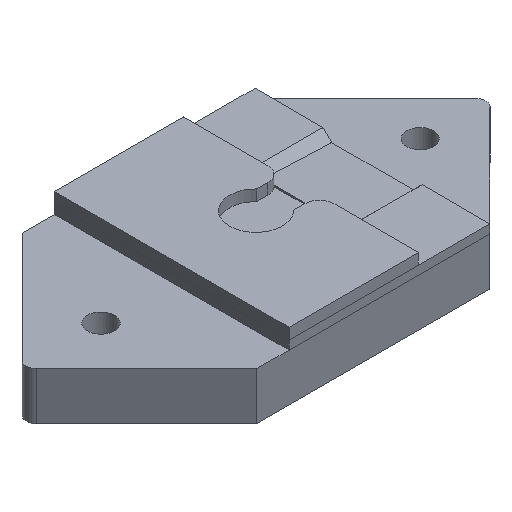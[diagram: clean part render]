
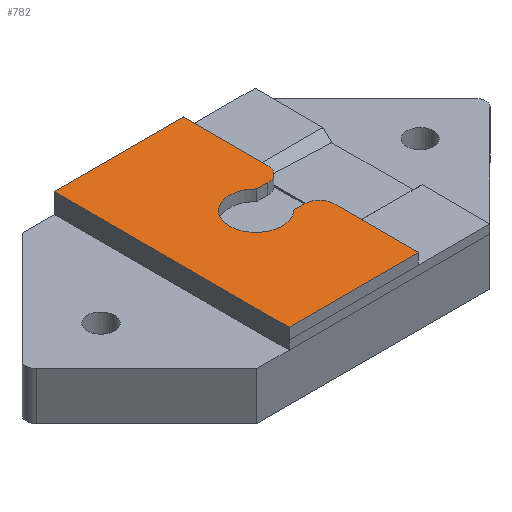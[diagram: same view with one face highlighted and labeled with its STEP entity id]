
A CAD part, isometric view. The second image highlights one B-rep face of the part: STEP entity #782.
In plain terms, the highlighted planar face has unit normal (0, 0, 1).
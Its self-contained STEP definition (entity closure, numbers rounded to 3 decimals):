
#555 = VERTEX_POINT('',#556);
#556 = CARTESIAN_POINT('',(-11.5,16.,2.7));
#562 = EDGE_CURVE('',#555,#563,#565,.T.);
#563 = VERTEX_POINT('',#564);
#564 = CARTESIAN_POINT('',(6.125,16.,2.7));
#565 = LINE('',#566,#567);
#566 = CARTESIAN_POINT('',(-11.5,16.,2.7));
#567 = VECTOR('',#568,1.);
#568 = DIRECTION('',(1.,0.,0.));
#642 = EDGE_CURVE('',#555,#643,#645,.T.);
#643 = VERTEX_POINT('',#644);
#644 = CARTESIAN_POINT('',(-11.5,-16.,2.7));
#645 = LINE('',#646,#647);
#646 = CARTESIAN_POINT('',(-11.5,16.,2.7));
#647 = VECTOR('',#648,1.);
#648 = DIRECTION('',(0.,-1.,0.));
#757 = VERTEX_POINT('',#758);
#758 = CARTESIAN_POINT('',(6.125,4.5,2.7));
#764 = EDGE_CURVE('',#757,#563,#765,.T.);
#765 = LINE('',#766,#767);
#766 = CARTESIAN_POINT('',(6.125,4.5,2.7));
#767 = VECTOR('',#768,1.);
#768 = DIRECTION('',(0.,1.,0.));
#782 = ADVANCED_FACE('',(#783),#845,.T.);
#783 = FACE_BOUND('',#784,.T.);
#784 = EDGE_LOOP('',(#785,#786,#794,#802,#811,#819,#828,#836,#843,#844)
  );
#785 = ORIENTED_EDGE('',*,*,#642,.T.);
#786 = ORIENTED_EDGE('',*,*,#787,.T.);
#787 = EDGE_CURVE('',#643,#788,#790,.T.);
#788 = VERTEX_POINT('',#789);
#789 = CARTESIAN_POINT('',(6.125,-16.,2.7));
#790 = LINE('',#791,#792);
#791 = CARTESIAN_POINT('',(-11.5,-16.,2.7));
#792 = VECTOR('',#793,1.);
#793 = DIRECTION('',(1.,0.,0.));
#794 = ORIENTED_EDGE('',*,*,#795,.T.);
#795 = EDGE_CURVE('',#788,#796,#798,.T.);
#796 = VERTEX_POINT('',#797);
#797 = CARTESIAN_POINT('',(6.125,-4.5,2.7));
#798 = LINE('',#799,#800);
#799 = CARTESIAN_POINT('',(6.125,-16.,2.7));
#800 = VECTOR('',#801,1.);
#801 = DIRECTION('',(0.,1.,0.));
#802 = ORIENTED_EDGE('',*,*,#803,.T.);
#803 = EDGE_CURVE('',#796,#804,#806,.T.);
#804 = VERTEX_POINT('',#805);
#805 = CARTESIAN_POINT('',(4.125,-2.5,2.7));
#806 = CIRCLE('',#807,2.);
#807 = AXIS2_PLACEMENT_3D('',#808,#809,#810);
#808 = CARTESIAN_POINT('',(4.125,-4.5,2.7));
#809 = DIRECTION('',(0.,0.,1.));
#810 = DIRECTION('',(1.,0.,0.));
#811 = ORIENTED_EDGE('',*,*,#812,.T.);
#812 = EDGE_CURVE('',#804,#813,#815,.T.);
#813 = VERTEX_POINT('',#814);
#814 = CARTESIAN_POINT('',(2.625,-2.5,2.7));
#815 = LINE('',#816,#817);
#816 = CARTESIAN_POINT('',(4.125,-2.5,2.7));
#817 = VECTOR('',#818,1.);
#818 = DIRECTION('',(-1.,0.,0.));
#819 = ORIENTED_EDGE('',*,*,#820,.F.);
#820 = EDGE_CURVE('',#821,#813,#823,.T.);
#821 = VERTEX_POINT('',#822);
#822 = CARTESIAN_POINT('',(2.625,2.5,2.7));
#823 = CIRCLE('',#824,3.625);
#824 = AXIS2_PLACEMENT_3D('',#825,#826,#827);
#825 = CARTESIAN_POINT('',(0.,0.,2.7));
#826 = DIRECTION('',(0.,0.,1.));
#827 = DIRECTION('',(1.,0.,0.));
#828 = ORIENTED_EDGE('',*,*,#829,.T.);
#829 = EDGE_CURVE('',#821,#830,#832,.T.);
#830 = VERTEX_POINT('',#831);
#831 = CARTESIAN_POINT('',(4.125,2.5,2.7));
#832 = LINE('',#833,#834);
#833 = CARTESIAN_POINT('',(2.625,2.5,2.7));
#834 = VECTOR('',#835,1.);
#835 = DIRECTION('',(1.,0.,0.));
#836 = ORIENTED_EDGE('',*,*,#837,.T.);
#837 = EDGE_CURVE('',#830,#757,#838,.T.);
#838 = CIRCLE('',#839,2.);
#839 = AXIS2_PLACEMENT_3D('',#840,#841,#842);
#840 = CARTESIAN_POINT('',(4.125,4.5,2.7));
#841 = DIRECTION('',(0.,0.,1.));
#842 = DIRECTION('',(1.,0.,0.));
#843 = ORIENTED_EDGE('',*,*,#764,.T.);
#844 = ORIENTED_EDGE('',*,*,#562,.F.);
#845 = PLANE('',#846);
#846 = AXIS2_PLACEMENT_3D('',#847,#848,#849);
#847 = CARTESIAN_POINT('',(-2.532,0.,2.7));
#848 = DIRECTION('',(0.,0.,1.));
#849 = DIRECTION('',(1.,0.,0.));
